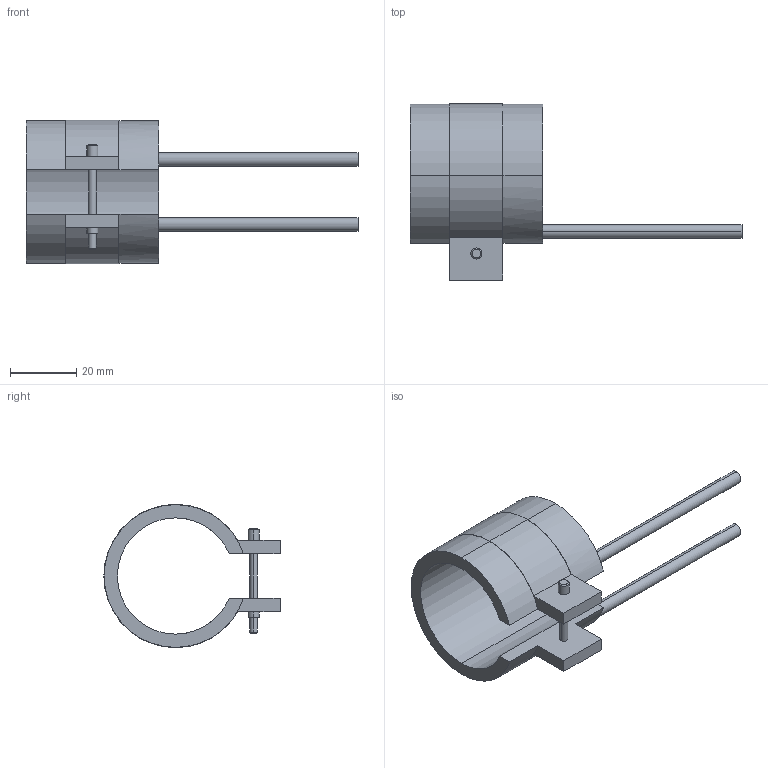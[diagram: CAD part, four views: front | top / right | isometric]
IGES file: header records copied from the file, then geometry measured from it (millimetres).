
Start section: START RECORD GO HERE.
Global section: file name: 14035040.igs; native system: DASSAULT SYSTEMES CATIA V5 R20 - www.3ds.com; preprocessor: CATIA Version 5 Release 20 ; author: Utente; organization: NB04-ASUS; date: 20210331.133630; units: millimetre
Bounding box: 100 x 53.1 x 43.2 mm (x, y, z)
Surface area: 12567.5 mm2 (no closed solid volume)
Topology: 0 solids, 0 shells, 45 faces, 232 edges, 232 vertices
Faces by surface type: revolution 28, plane 17
